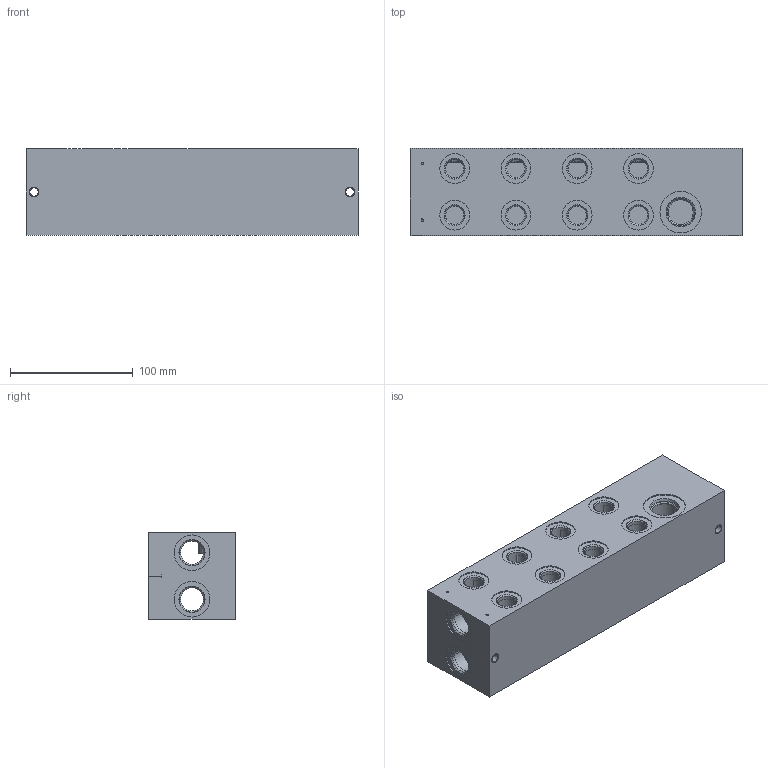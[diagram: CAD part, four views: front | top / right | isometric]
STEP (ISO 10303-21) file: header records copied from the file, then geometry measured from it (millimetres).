
FILE_DESCRIPTION((''),'2;1');
FILE_NAME('27563800','2015-11-27T',('Ahcz.brigadnik05'),(''),'PRO/ENGINEER BY PARAMETRIC TECHNOLOGY CORPORATION, 2015110','PRO/ENGINEER BY PARAMETRIC TECHNOLOGY CORPORATION, 2015110','');
FILE_SCHEMA(('AUTOMOTIVE_DESIGN { 1 0 10303 214 1 1 1 1 }'));
Length unit declared in the file: millimetre
Products named in the file (1): 27563800
Bounding box: 271 x 71 x 71 mm (x, y, z)
Volume: 453791.4 mm3; surface area: 174740.3 mm2
Topology: 1 solids, 37 shells, 320 faces, 1210 edges, 1171 vertices
Faces by surface type: cylinder 214, plane 66, cone 40
Entity records: 17794 total; most frequent: CARTESIAN_POINT 3473, DIRECTION 2292, ORIENTED_EDGE 1588, PRESENTATION_STYLE_ASSIGNMENT 1285, STYLED_ITEM 1285, CURVE_STYLE 1242, EDGE_CURVE 866, AXIS2_PLACEMENT_3D 825
